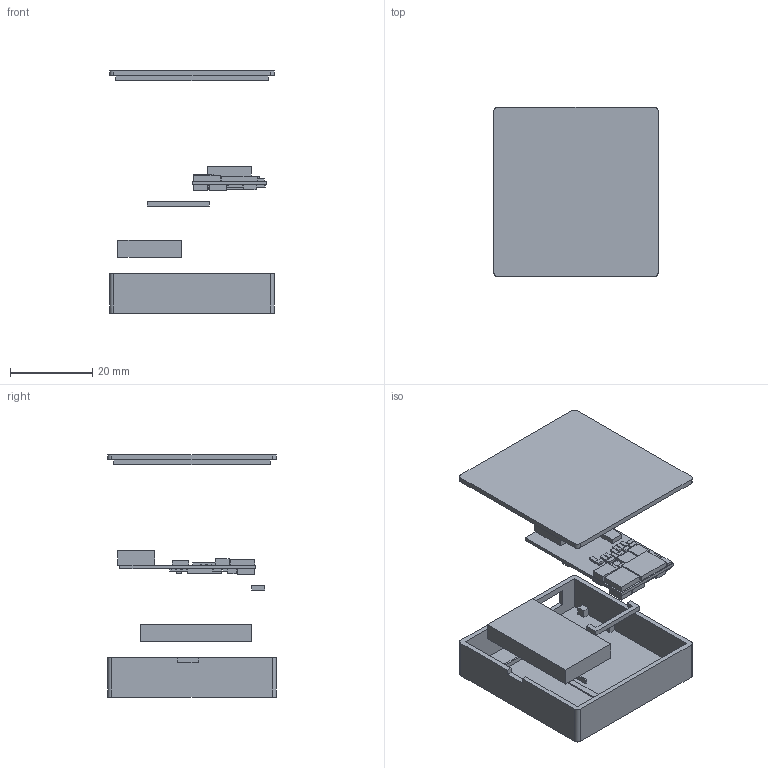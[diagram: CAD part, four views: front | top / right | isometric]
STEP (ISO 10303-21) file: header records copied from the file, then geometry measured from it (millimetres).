
FILE_DESCRIPTION(('SolidCraft model'),'2;1');
FILE_NAME('exploded.step','',(''),(''),'SolidCraft','SolidCraft','');
FILE_SCHEMA(('AP242_MANAGED_MODEL_BASED_3D_ENGINEERING_MIM_LF { 1 0 10303 442 1 1 4 }'));
Length unit declared in the file: millimetre
Products named in the file (1): exploded
Bounding box: 40 x 41 x 58.8 mm (x, y, z)
Volume: 8660.9 mm3; surface area: 13159.5 mm2
Topology: 5 solids, 5 shells, 483 faces, 1170 edges, 780 vertices
Faces by surface type: plane 475, cylinder 8
Entity records: 9772 total; most frequent: ORIENTED_EDGE 2340, EDGE_CURVE 1170, LINE 1154, CARTESIAN_POINT 969, VERTEX_POINT 780, EDGE_LOOP 568, FACE_BOUND 568, AXIS2_PLACEMENT_3D 484
